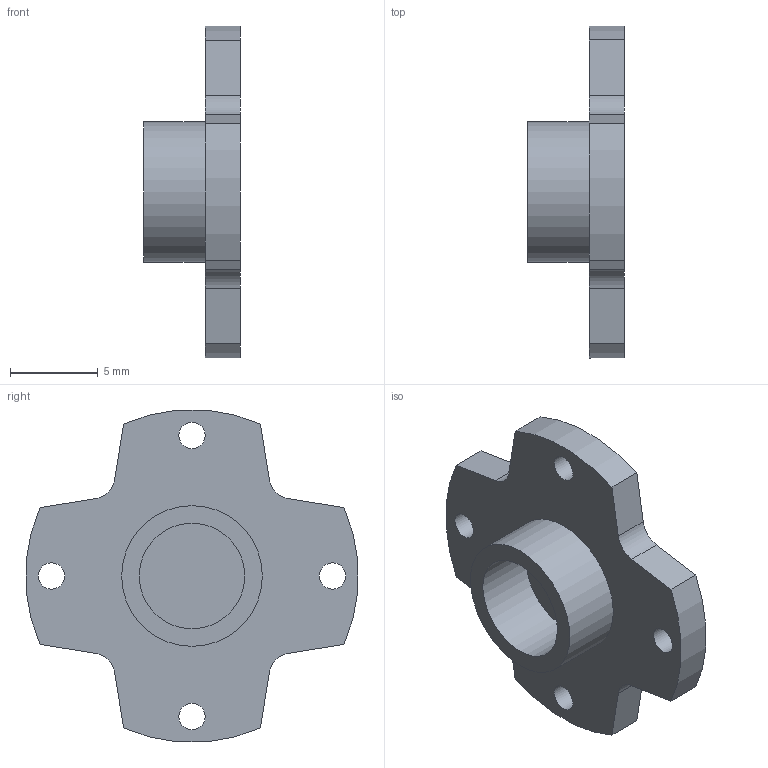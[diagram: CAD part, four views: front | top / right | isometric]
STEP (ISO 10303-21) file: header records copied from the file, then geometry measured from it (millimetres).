
FILE_DESCRIPTION(/* description */ ('STEP AP242 Edition 2','CAx-IF Rec.Pracs.---Representation and Presentation of Product Manufacturing Information (PMI)---4.0---2014-10-13','CAx-IF Rec.Pracs.---3D Tessellated Geometry---0.4---2014-09-14','2;1','CAx-IF Rec.Pracs.---User Defined Attributes---1.5---2016-08-15'),/* implementation_level */ '2;1');
FILE_NAME(/* name */ 'Assembly 1 - 26263',/* time_stamp */ '2026-08-25T12:54:10Z',/* author */ (''),/* organization */ (''),/* preprocessor_version */ 'ST-DEVELOPER v20',/* originating_system */ 'ONSHAPE BY PTC INC, 1.219',/* authorisation */ ' ');
FILE_SCHEMA (('AP242_MANAGED_MODEL_BASED_3D_ENGINEERING_MIM_LF { 1 0 10303 442 3 1 4 }'));
Length unit declared in the file: metre
Products named in the file (1): 26263
Bounding box: 5.5 x 18.89 x 18.89 mm (x, y, z)
Volume: 541.6 mm3; surface area: 784.7 mm2
Topology: 1 solids, 1 shells, 26 faces, 67 edges, 45 vertices
Faces by surface type: cylinder 14, plane 12
Full cylindrical faces by diameter (mm): 1.5 x4, 6 x1, 8 x1
Entity records: 806 total; most frequent: DIRECTION 142, CARTESIAN_POINT 131, ORIENTED_EDGE 120, EDGE_CURVE 60, AXIS2_PLACEMENT_3D 55, VERTEX_POINT 44, EDGE_LOOP 42, FACE_BOUND 42
